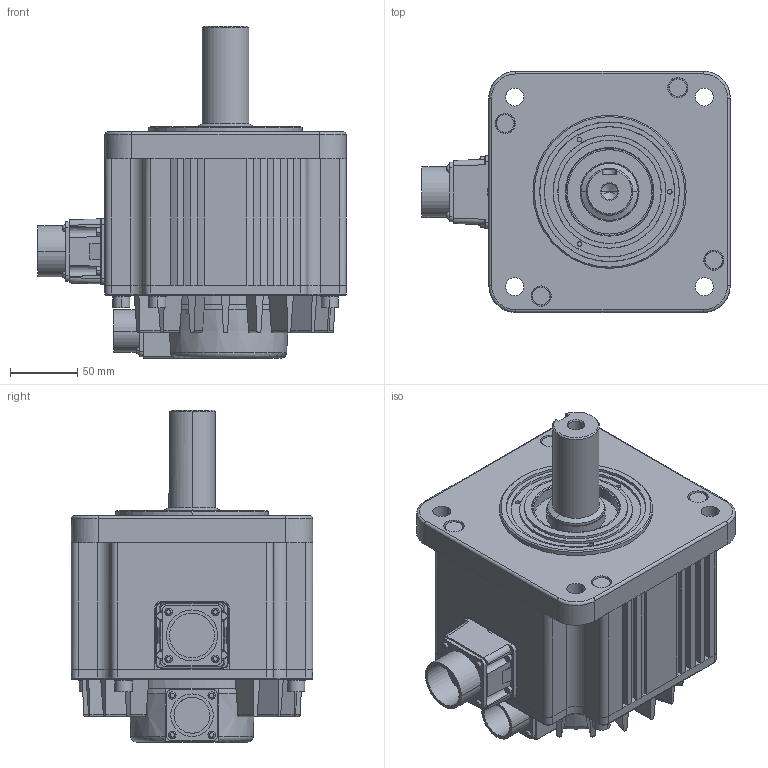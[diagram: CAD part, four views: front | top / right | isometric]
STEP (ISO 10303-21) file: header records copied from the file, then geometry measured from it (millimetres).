
FILE_DESCRIPTION((''),'2;1');
FILE_NAME('ECMA-EX1820RS','2015-04-02T',('MIO.CHEN'),(''),'PRO/ENGINEER BY PARAMETRIC TECHNOLOGY CORPORATION, 2010180','PRO/ENGINEER BY PARAMETRIC TECHNOLOGY CORPORATION, 2010180','');
FILE_SCHEMA(('AUTOMOTIVE_DESIGN_CC2 { 1 2 10303 214 -1 1 5 2 }'));
Length unit declared in the file: millimetre
Products named in the file (1): ECMA-EX1820RS
Bounding box: 230.02 x 180 x 247.7 mm (x, y, z)
Volume: 4113321.2 mm3; surface area: 251632.2 mm2
Topology: 1 solids, 1 shells, 597 faces, 1428 edges, 904 vertices
Faces by surface type: plane 319, cylinder 187, cone 50, bspline 27, torus 14
Entity records: 18431 total; most frequent: CARTESIAN_POINT 4580, ORIENTED_EDGE 2852, DIRECTION 2827, EDGE_CURVE 1426, AXIS2_PLACEMENT_3D 1005, VERTEX_POINT 904, VECTOR 817, LINE 817
